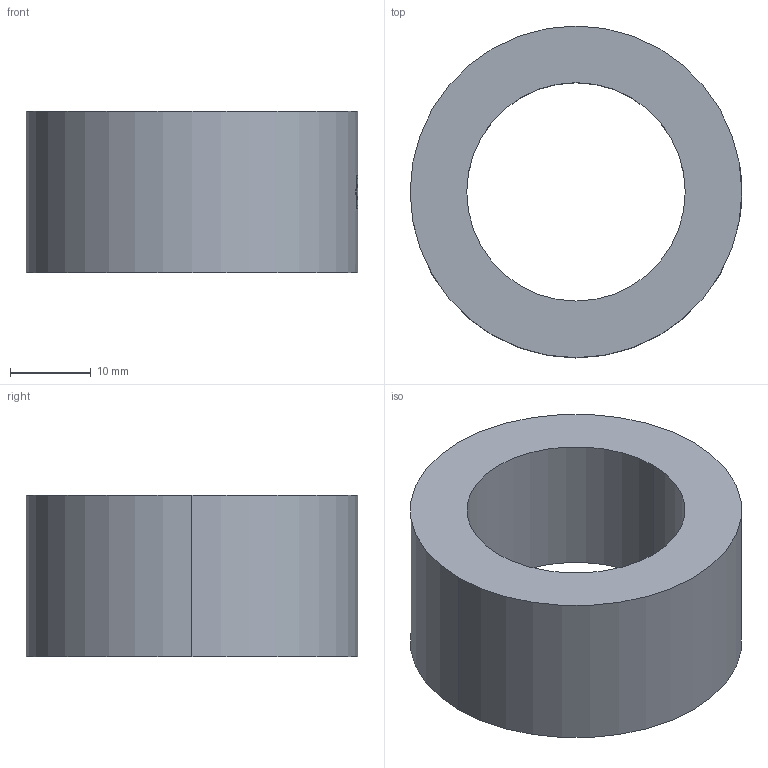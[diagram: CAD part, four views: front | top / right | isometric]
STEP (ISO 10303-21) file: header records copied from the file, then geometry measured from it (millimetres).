
FILE_DESCRIPTION (( 'STEP AP203' ), '1' );
FILE_NAME ('WJ-RDM 50-T.STEP', '2007-03-01T14:00:43', ( ' ' ), ( '' ), 'SwSTEP 2.0', 'SolidWorks 2005278', '' );
FILE_SCHEMA (( 'CONFIG_CONTROL_DESIGN' ));
Length unit declared in the file: millimetre
Products named in the file (1): WJ-RDM 50-T
Bounding box: 41 x 41 x 20 mm (x, y, z)
Volume: 13470.7 mm3; surface area: 5682.2 mm2
Topology: 1 solids, 1 shells, 46 faces, 125 edges, 82 vertices
Faces by surface type: plane 36, cylinder 8, cone 2
Entity records: 1558 total; most frequent: CARTESIAN_POINT 314, ORIENTED_EDGE 250, DIRECTION 239, EDGE_CURVE 125, AXIS2_PLACEMENT_3D 87, VERTEX_POINT 82, VECTOR 65, LINE 65
